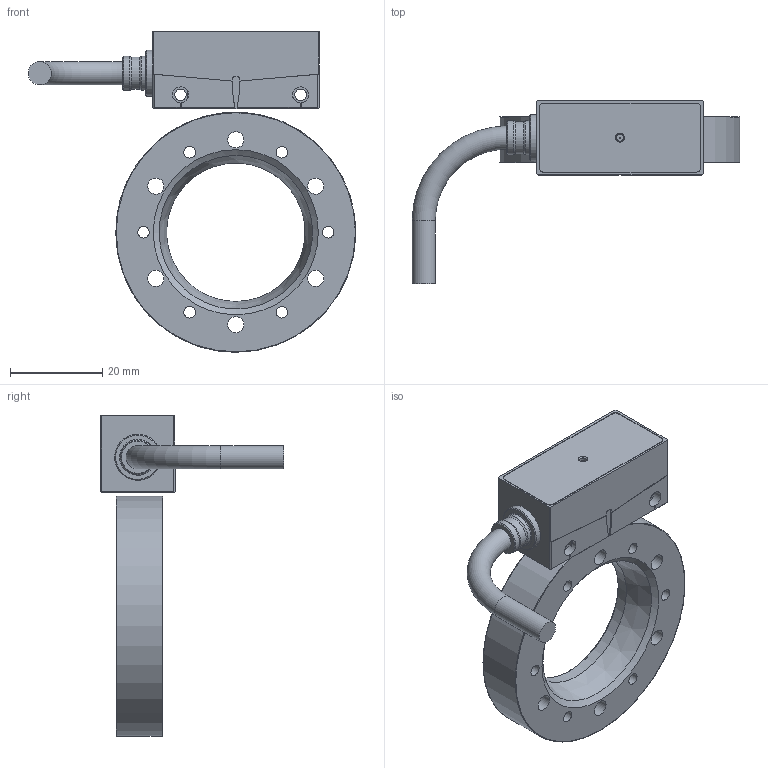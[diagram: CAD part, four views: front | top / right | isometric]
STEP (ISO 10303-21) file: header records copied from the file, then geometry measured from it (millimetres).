
FILE_DESCRIPTION(('STEP AP214'), '1');
FILE_NAME('廖妊-52_厌铕赅.a3d', '', ('UNSPECIFIED'), ('UNSPECIFIED'), 'C3D Converter', 'C3D Toolkit', '');
FILE_SCHEMA(('AUTOMOTIVE_DESIGN { 1 0 10303 214 3 1 1}'));
Length unit declared in the file: millimetre
Products named in the file (9): ДМШК.418122.024
Assembly tree (8 placements, depth 3):
  (unnamed)
    (unnamed)
    ДМШК.418122.024
      (unnamed)
      (unnamed)
      (unnamed)
      (unnamed)
      (unnamed)
      (unnamed)
Bounding box: 70.95 x 39.71 x 69.44 mm (x, y, z)
Volume: 17572.5 mm3; surface area: 13692.9 mm2
Topology: 8 solids, 8 shells, 234 faces, 615 edges, 411 vertices
Faces by surface type: plane 133, cylinder 85, cone 8, torus 8
Full cylindrical faces by diameter (mm): 0.165 x2, 1.5 x1, 2.5 x9, 3.5 x10, 4 x1, 5 x2, 6 x6, 6.2 x1, 6.6 x3, 7 x1, 7.4 x2, 9.3 x1, 10 x1, 30 x1, 52 x1
Entity records: 10005 total; most frequent: CARTESIAN_POINT 1797, DIRECTION 1248, ORIENTED_EDGE 1116, EDGE_CURVE 558, AXIS2_PLACEMENT_3D 456, VERTEX_POINT 411, EDGE_LOOP 349, LINE 336
